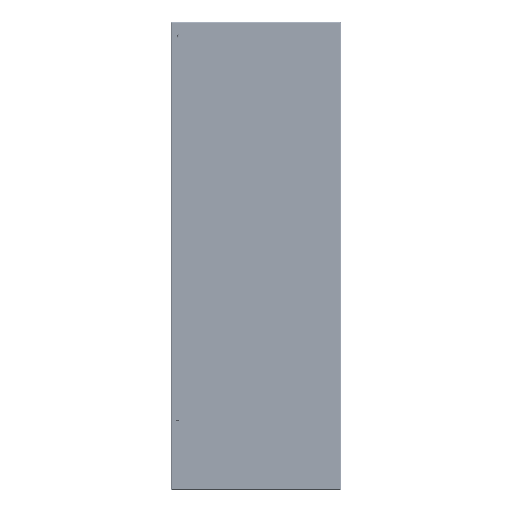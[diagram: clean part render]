
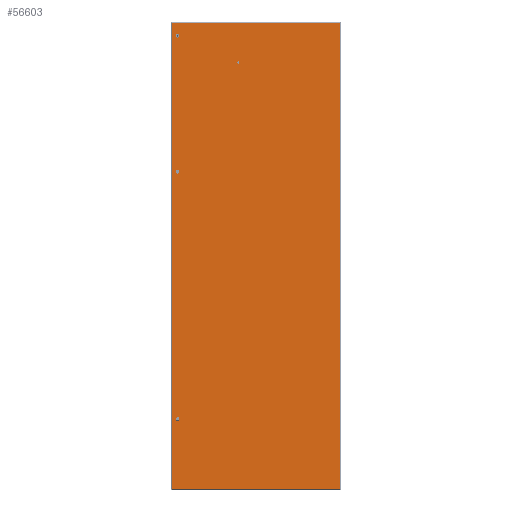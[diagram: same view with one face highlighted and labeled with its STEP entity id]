
A CAD part, top view. The second image highlights one B-rep face of the part: STEP entity #56603.
In plain terms, the highlighted planar face has unit normal (0, 0, 1).
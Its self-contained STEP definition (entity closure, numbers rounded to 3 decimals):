
#35774 = EDGE_LOOP ( 'NONE', ( #89121, #89123 ) ) ;
#35778 = EDGE_LOOP ( 'NONE', ( #89126, #89129 ) ) ;
#35780 = EDGE_LOOP ( 'NONE', ( #89132, #89134 ) ) ;
#35783 = EDGE_LOOP ( 'NONE', ( #89136, #89139 ) ) ;
#35785 = EDGE_LOOP ( 'NONE', ( #89143, #89146, #89149, #89151 ) ) ;
#53596 = EDGE_CURVE ( 'NONE', #54192, #54191, #71286, .T. ) ;
#53597 = EDGE_CURVE ( 'NONE', #54183, #54182, #71288, .T. ) ;
#53603 = EDGE_CURVE ( 'NONE', #54188, #54187, #71297, .T. ) ;
#53604 = EDGE_CURVE ( 'NONE', #54197, #54195, #71299, .T. ) ;
#53975 = EDGE_CURVE ( 'NONE', #54729, #54723, #72150, .T. ) ;
#53977 = EDGE_CURVE ( 'NONE', #54723, #54267, #72168, .T. ) ;
#53979 = EDGE_CURVE ( 'NONE', #54267, #54270, #72171, .T. ) ;
#53981 = EDGE_CURVE ( 'NONE', #54270, #54729, #72166, .T. ) ;
#53983 = EDGE_CURVE ( 'NONE', #54195, #54197, #72177, .T. ) ;
#53985 = EDGE_CURVE ( 'NONE', #54191, #54192, #72180, .T. ) ;
#53987 = EDGE_CURVE ( 'NONE', #54187, #54188, #72184, .T. ) ;
#53989 = EDGE_CURVE ( 'NONE', #54182, #54183, #72188, .T. ) ;
#54182 = VERTEX_POINT ( 'NONE', #82692 ) ;
#54183 = VERTEX_POINT ( 'NONE', #82696 ) ;
#54187 = VERTEX_POINT ( 'NONE', #82707 ) ;
#54188 = VERTEX_POINT ( 'NONE', #82710 ) ;
#54191 = VERTEX_POINT ( 'NONE', #82722 ) ;
#54192 = VERTEX_POINT ( 'NONE', #82725 ) ;
#54195 = VERTEX_POINT ( 'NONE', #82736 ) ;
#54197 = VERTEX_POINT ( 'NONE', #82740 ) ;
#54267 = VERTEX_POINT ( 'NONE', #82998 ) ;
#54270 = VERTEX_POINT ( 'NONE', #83009 ) ;
#54723 = VERTEX_POINT ( 'NONE', #102920 ) ;
#54729 = VERTEX_POINT ( 'NONE', #102931 ) ;
#56603 = ADVANCED_FACE ( 'NONE', ( #132024, #132031, #132033, #132034, #132026 ), #128517, .T. ) ;
#62981 = CARTESIAN_POINT ( 'NONE',  ( -7.795, -7.255, 0. ) ) ;
#63011 = DIRECTION ( 'NONE',  ( 0., 0., -1. ) ) ;
#63013 = DIRECTION ( 'NONE',  ( 1., 0., 0. ) ) ;
#63015 = CARTESIAN_POINT ( 'NONE',  ( -17.905, -1.625, 0. ) ) ;
#63018 = DIRECTION ( 'NONE',  ( 0., 0., -1. ) ) ;
#63020 = DIRECTION ( 'NONE',  ( 1., 0., 0. ) ) ;
#63046 = CARTESIAN_POINT ( 'NONE',  ( 15.115, -7.255, 0. ) ) ;
#63049 = DIRECTION ( 'NONE',  ( 0., 0., -1. ) ) ;
#63051 = DIRECTION ( 'NONE',  ( 1., 0., 0. ) ) ;
#63052 = CARTESIAN_POINT ( 'NONE',  ( -20.385, -7.255, 0. ) ) ;
#63055 = DIRECTION ( 'NONE',  ( 0., 0., -1. ) ) ;
#63057 = DIRECTION ( 'NONE',  ( 1., 0., 0. ) ) ;
#71286 = CIRCLE ( 'NONE', #157962, 0.172 ) ;
#71288 = CIRCLE ( 'NONE', #157953, 0.095 ) ;
#71297 = CIRCLE ( 'NONE', #157964, 0.172 ) ;
#71299 = CIRCLE ( 'NONE', #157965, 0.172 ) ;
#72150 = LINE ( 'NONE', #80183, #72152 ) ;
#72152 = VECTOR ( 'NONE', #80186, 39.37 ) ;
#72157 = VECTOR ( 'NONE', #80231, 39.37 ) ;
#72161 = VECTOR ( 'NONE', #80212, 39.37 ) ;
#72166 = LINE ( 'NONE', #80253, #72170 ) ;
#72168 = LINE ( 'NONE', #80209, #72161 ) ;
#72170 = VECTOR ( 'NONE', #80256, 39.37 ) ;
#72171 = LINE ( 'NONE', #80214, #72157 ) ;
#72177 = CIRCLE ( 'NONE', #158004, 0.172 ) ;
#72180 = CIRCLE ( 'NONE', #158008, 0.172 ) ;
#72184 = CIRCLE ( 'NONE', #158012, 0.172 ) ;
#72188 = CIRCLE ( 'NONE', #158014, 0.095 ) ;
#80183 = CARTESIAN_POINT ( 'NONE',  ( 0., -7.784, 0. ) ) ;
#80186 = DIRECTION ( 'NONE',  ( 1., 0., 0. ) ) ;
#80209 = CARTESIAN_POINT ( 'NONE',  ( 21.564, 0., 0. ) ) ;
#80212 = DIRECTION ( 'NONE',  ( 0., 1., 0. ) ) ;
#80214 = CARTESIAN_POINT ( 'NONE',  ( 0., 7.784, 0. ) ) ;
#80231 = DIRECTION ( 'NONE',  ( -1., 0., 0. ) ) ;
#80253 = CARTESIAN_POINT ( 'NONE',  ( -21.564, 0., 0. ) ) ;
#80256 = DIRECTION ( 'NONE',  ( 0., -1., 0. ) ) ;
#80260 = CARTESIAN_POINT ( 'NONE',  ( -20.385, -7.255, 0. ) ) ;
#80281 = DIRECTION ( 'NONE',  ( 0., 0., -1. ) ) ;
#80283 = DIRECTION ( 'NONE',  ( 1., 0., 0. ) ) ;
#80286 = CARTESIAN_POINT ( 'NONE',  ( -7.795, -7.255, 0. ) ) ;
#80303 = DIRECTION ( 'NONE',  ( 0., 0., -1. ) ) ;
#80306 = DIRECTION ( 'NONE',  ( 1., 0., 0. ) ) ;
#80309 = CARTESIAN_POINT ( 'NONE',  ( 15.115, -7.255, 0. ) ) ;
#80331 = DIRECTION ( 'NONE',  ( 0., 0., -1. ) ) ;
#80334 = DIRECTION ( 'NONE',  ( 1., 0., 0. ) ) ;
#80336 = CARTESIAN_POINT ( 'NONE',  ( -17.905, -1.625, 0. ) ) ;
#80359 = DIRECTION ( 'NONE',  ( 0., 0., -1. ) ) ;
#80362 = DIRECTION ( 'NONE',  ( 1., 0., 0. ) ) ;
#82692 = CARTESIAN_POINT ( 'NONE',  ( -18., -1.625, 0. ) ) ;
#82696 = CARTESIAN_POINT ( 'NONE',  ( -17.811, -1.625, 0. ) ) ;
#82707 = CARTESIAN_POINT ( 'NONE',  ( 14.943, -7.255, 0. ) ) ;
#82710 = CARTESIAN_POINT ( 'NONE',  ( 15.287, -7.255, 0. ) ) ;
#82722 = CARTESIAN_POINT ( 'NONE',  ( -7.967, -7.255, 0. ) ) ;
#82725 = CARTESIAN_POINT ( 'NONE',  ( -7.623, -7.255, 0. ) ) ;
#82736 = CARTESIAN_POINT ( 'NONE',  ( -20.557, -7.255, 0. ) ) ;
#82740 = CARTESIAN_POINT ( 'NONE',  ( -20.213, -7.255, 0. ) ) ;
#82998 = CARTESIAN_POINT ( 'NONE',  ( 21.564, 7.784, 0. ) ) ;
#83009 = CARTESIAN_POINT ( 'NONE',  ( -21.564, 7.784, 0. ) ) ;
#89121 = ORIENTED_EDGE ( 'NONE', *, *, #53597, .T. ) ;
#89123 = ORIENTED_EDGE ( 'NONE', *, *, #53989, .T. ) ;
#89126 = ORIENTED_EDGE ( 'NONE', *, *, #53603, .T. ) ;
#89129 = ORIENTED_EDGE ( 'NONE', *, *, #53987, .T. ) ;
#89132 = ORIENTED_EDGE ( 'NONE', *, *, #53596, .T. ) ;
#89134 = ORIENTED_EDGE ( 'NONE', *, *, #53985, .T. ) ;
#89136 = ORIENTED_EDGE ( 'NONE', *, *, #53604, .T. ) ;
#89139 = ORIENTED_EDGE ( 'NONE', *, *, #53983, .T. ) ;
#89143 = ORIENTED_EDGE ( 'NONE', *, *, #53979, .T. ) ;
#89146 = ORIENTED_EDGE ( 'NONE', *, *, #53981, .T. ) ;
#89149 = ORIENTED_EDGE ( 'NONE', *, *, #53975, .T. ) ;
#89151 = ORIENTED_EDGE ( 'NONE', *, *, #53977, .T. ) ;
#102920 = CARTESIAN_POINT ( 'NONE',  ( 21.564, -7.784, 0. ) ) ;
#102931 = CARTESIAN_POINT ( 'NONE',  ( -21.564, -7.784, 0. ) ) ;
#126928 = AXIS2_PLACEMENT_3D ( 'NONE', #128520, #128524, #128525 ) ;
#128517 = PLANE ( 'NONE',  #126928 ) ;
#128520 = CARTESIAN_POINT ( 'NONE',  ( 0., 0., 0. ) ) ;
#128524 = DIRECTION ( 'NONE',  ( 0., 0., 1. ) ) ;
#128525 = DIRECTION ( 'NONE',  ( 1., 0., 0. ) ) ;
#132024 = FACE_BOUND ( 'NONE', #35774, .T. ) ;
#132026 = FACE_OUTER_BOUND ( 'NONE', #35785, .T. ) ;
#132031 = FACE_BOUND ( 'NONE', #35778, .T. ) ;
#132033 = FACE_BOUND ( 'NONE', #35780, .T. ) ;
#132034 = FACE_BOUND ( 'NONE', #35783, .T. ) ;
#157953 = AXIS2_PLACEMENT_3D ( 'NONE', #63015, #63018, #63020 ) ;
#157962 = AXIS2_PLACEMENT_3D ( 'NONE', #62981, #63011, #63013 ) ;
#157964 = AXIS2_PLACEMENT_3D ( 'NONE', #63046, #63049, #63051 ) ;
#157965 = AXIS2_PLACEMENT_3D ( 'NONE', #63052, #63055, #63057 ) ;
#158004 = AXIS2_PLACEMENT_3D ( 'NONE', #80260, #80281, #80283 ) ;
#158008 = AXIS2_PLACEMENT_3D ( 'NONE', #80286, #80303, #80306 ) ;
#158012 = AXIS2_PLACEMENT_3D ( 'NONE', #80309, #80331, #80334 ) ;
#158014 = AXIS2_PLACEMENT_3D ( 'NONE', #80336, #80359, #80362 ) ;
